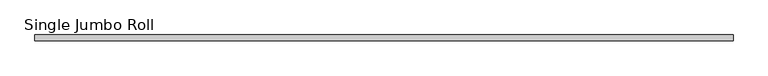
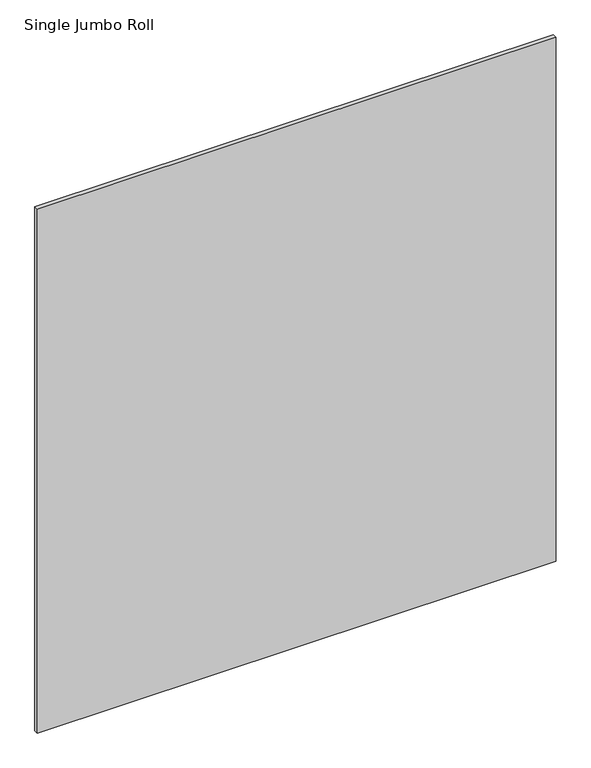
"""IFC4 building model written with IfcOpenShell, lengths in millimetres: furniture geometry, X_Partition-Compact Laminate-Duracube-Rectangular : Single Jumbo Roll."""

from ifc_helpers import new_model, si_unit, frame, origin, place, context, project, spatial, polyline, outline, extrude, source, transform, mapped, element, save


def single_jumbo_roll_84fdac57(model_context):
    return source(origin(), model_context, "Body", "SweptSolid", [
        extrude(outline(polyline([(840.7003264, 0.0), (840.7003264, -13.0), (-751.2996736, -13.0), (-751.2996736, 0.0), (840.7003264, 0.0)])), frame((0.0, 0.0, 200.0), z_axis=(0.0, 0.0, 1.0), x_axis=(1.0, 0.0, 0.0)), (0.0, 0.0, 1.0), 1700.0),
    ])


if __name__ == "__main__":
    model = new_model("IFC4")
    model_context = context("Model", 3, world=origin())
    ifc_project = project(units=[si_unit("LENGTHUNIT", "METRE", prefix="MILLI")], contexts=[model_context])
    site = spatial("IfcSite", under=ifc_project)
    building = spatial("IfcBuilding", under=site)
    placement = place(None, origin())
    single_jumbo_roll_shape = single_jumbo_roll_84fdac57(model_context)
    element("IfcFurniture", 1, ObjectType="X_Partition-Compact Laminate-Duracube-Rectangular : Single Jumbo Roll", at=placement, inside=building, context=model_context, shape_type="MappedRepresentation", body=[
        mapped(single_jumbo_roll_shape, transform((0.0, 0.0, 0.0), x_axis=(1.0, 0.0, 0.0), y_axis=(0.0, 1.0, 0.0), z_axis=(0.0, 0.0, 1.0))),
    ])
    save(model, "model.ifc")
